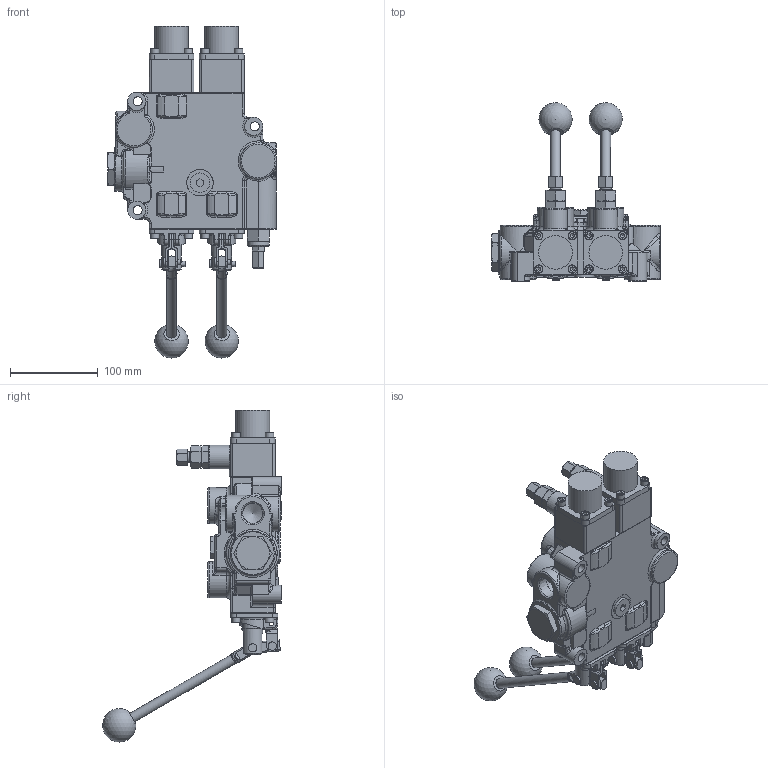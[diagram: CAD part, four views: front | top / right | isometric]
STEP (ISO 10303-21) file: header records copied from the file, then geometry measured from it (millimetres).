
FILE_DESCRIPTION((''),'2;1');
FILE_NAME('C:\Vault\Workspace\z_ShellModels\RD5000\RD522MMEE5A4B1_Shell.stp','2012-03-19T09:14:32',('PetersW'),(''),'Autodesk Inventor 2012','Autodesk Inventor 2012','');
FILE_SCHEMA(('AUTOMOTIVE_DESIGN { 1 0 10303 214 1 1 1 1 }'));
Length unit declared in the file: inch
Products named in the file (1): Part2
Bounding box: 192.21 x 203.39 x 377.9 mm (x, y, z)
Volume: 1794827.5 mm3; surface area: 262427.7 mm2
Topology: 5 solids, 44 shells, 1858 faces, 4460 edges, 2729 vertices
Faces by surface type: plane 805, cylinder 431, cone 245, bspline 222, torus 129, sphere 26
Full cylindrical faces by diameter (mm): 1.016 x2, 2.388 x4, 4.75 x1, 4.813 x4, 4.978 x16, 5.017 x4, 6.248 x4, 6.325 x4, 6.35 x20, 6.375 x4, 6.731 x24, 8.382 x2, 9.398 x2, 9.525 x21, 10.312 x3, 11.113 x2, 12.319 x2, 12.446 x2, 12.7 x2, 14.275 x2, 14.656 x1, 17.323 x2, 17.399 x2, 17.475 x4, 19.685 x1, 20.472 x1, 20.638 x2, 22.225 x3, 22.631 x2, 23.52 x2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
Entity records: 64358 total; most frequent: CARTESIAN_POINT 23232, ORIENTED_EDGE 7954, DIRECTION 7821, EDGE_CURVE 3977, AXIS2_PLACEMENT_3D 3064, VERTEX_POINT 2578, EDGE_LOOP 2297, STYLED_ITEM 1863
